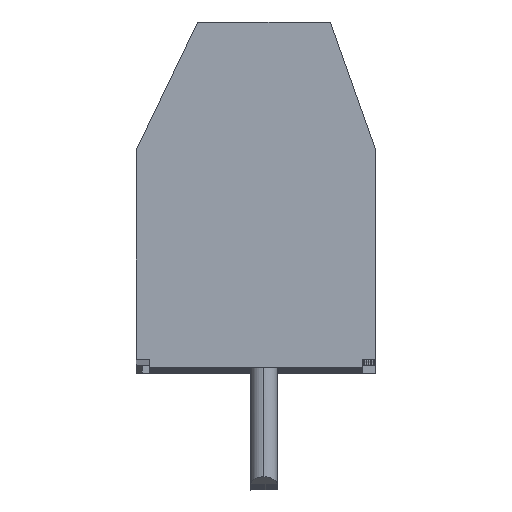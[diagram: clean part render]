
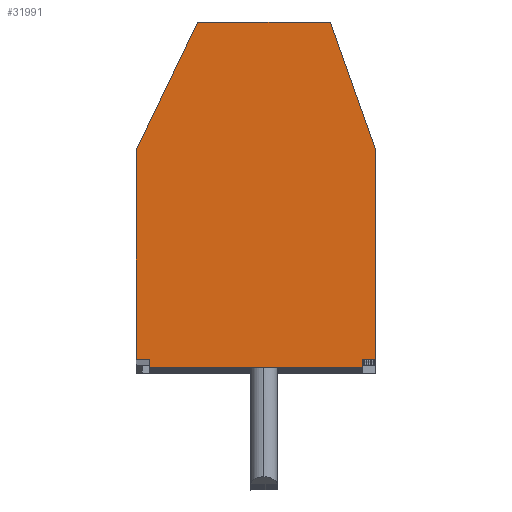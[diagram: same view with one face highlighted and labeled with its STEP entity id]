
A CAD part, top view. The second image highlights one B-rep face of the part: STEP entity #31991.
In plain terms, the highlighted planar face has unit normal (0, 0, 1).
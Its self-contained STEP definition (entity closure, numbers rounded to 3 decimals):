
#3039 = DIRECTION ( 'NONE',  ( 0.334, -0.943, 0. ) ) ;
#3040 = VECTOR ( 'NONE', #3039, 1000. ) ;
#3041 = CARTESIAN_POINT ( 'NONE',  ( 2.5, 12.7, 0. ) ) ;
#3042 = LINE ( 'NONE', #3041, #3040 ) ;
#3404 = CARTESIAN_POINT ( 'NONE',  ( 4.2, 7.9, 0. ) ) ;
#6079 = CARTESIAN_POINT ( 'NONE',  ( -4.8, 7.9, 0. ) ) ;
#6125 = CARTESIAN_POINT ( 'NONE',  ( -4.3, 0., 0. ) ) ;
#6126 = DIRECTION ( 'NONE',  ( -1., 0., 0. ) ) ;
#6127 = VECTOR ( 'NONE', #6126, 1000. ) ;
#6128 = CARTESIAN_POINT ( 'NONE',  ( 4.2, 0., 0. ) ) ;
#6129 = LINE ( 'NONE', #6128, #6127 ) ;
#6130 = CARTESIAN_POINT ( 'NONE',  ( -4.8, 0., 0. ) ) ;
#6131 = DIRECTION ( 'NONE',  ( 0., -1., 0. ) ) ;
#6132 = VECTOR ( 'NONE', #6131, 1000. ) ;
#6133 = CARTESIAN_POINT ( 'NONE',  ( -4.8, 3.95, 0. ) ) ;
#6134 = LINE ( 'NONE', #6133, #6132 ) ;
#6135 = DIRECTION ( 'NONE',  ( -1., 0., 0. ) ) ;
#6136 = DIRECTION ( 'NONE',  ( 0., 0., -1. ) ) ;
#6137 = CARTESIAN_POINT ( 'NONE',  ( 4.2, -0.3, 0. ) ) ;
#6138 = AXIS2_PLACEMENT_3D ( 'NONE', #6137, #6136, #6135 ) ;
#6139 = PLANE ( 'NONE',  #6138 ) ;
#6140 = FACE_OUTER_BOUND ( 'NONE', #31995, .T. ) ;
#6141 = DIRECTION ( 'NONE',  ( 0.432, 0.902, 0. ) ) ;
#6142 = VECTOR ( 'NONE', #6141, 1000. ) ;
#6143 = CARTESIAN_POINT ( 'NONE',  ( -4.8, 7.9, 0. ) ) ;
#6144 = LINE ( 'NONE', #6143, #6142 ) ;
#6237 = CARTESIAN_POINT ( 'NONE',  ( -0.3, -0.3, 0. ) ) ;
#6238 = LINE ( 'NONE', #6237, #6298 ) ;
#6239 = CARTESIAN_POINT ( 'NONE',  ( -4.3, -0.3, 0. ) ) ;
#6240 = DIRECTION ( 'NONE',  ( 0., 1., 0. ) ) ;
#6241 = VECTOR ( 'NONE', #6240, 1000. ) ;
#6242 = CARTESIAN_POINT ( 'NONE',  ( -4.3, 6.2, 0. ) ) ;
#6243 = LINE ( 'NONE', #6242, #6241 ) ;
#6293 = DIRECTION ( 'NONE',  ( 0., 1., 0. ) ) ;
#6294 = VECTOR ( 'NONE', #6293, 1000. ) ;
#6295 = CARTESIAN_POINT ( 'NONE',  ( 4.2, -0.3, 0. ) ) ;
#6296 = LINE ( 'NONE', #6295, #6294 ) ;
#6297 = DIRECTION ( 'NONE',  ( -1., 0., 0. ) ) ;
#6298 = VECTOR ( 'NONE', #6297, 1000. ) ;
#19757 = EDGE_CURVE ( 'NONE', #19759, #19794, #35861, .T. ) ;
#19759 = VERTEX_POINT ( 'NONE', #36056 ) ;
#19794 = VERTEX_POINT ( 'NONE', #36127 ) ;
#26281 = VERTEX_POINT ( 'NONE', #65357 ) ;
#26298 = VERTEX_POINT ( 'NONE', #65401 ) ;
#26305 = EDGE_CURVE ( 'NONE', #26298, #26281, #65395, .T. ) ;
#26467 = VERTEX_POINT ( 'NONE', #65567 ) ;
#26477 = EDGE_CURVE ( 'NONE', #19759, #26467, #65556, .T. ) ;
#29557 = EDGE_CURVE ( 'NONE', #26281, #29758, #3042, .T. ) ;
#29758 = VERTEX_POINT ( 'NONE', #3404 ) ;
#31981 = VERTEX_POINT ( 'NONE', #6079 ) ;
#31987 = EDGE_CURVE ( 'NONE', #31981, #26298, #6144, .T. ) ;
#31991 = ADVANCED_FACE ( 'NONE', ( #6140 ), #6139, .F. ) ;
#31995 = EDGE_LOOP ( 'NONE', ( #31997, #32000, #32003, #32012, #32183, #32190, #32195, #32197, #32199, #32203 ) ) ;
#31997 = ORIENTED_EDGE ( 'NONE', *, *, #26305, .F. ) ;
#32000 = ORIENTED_EDGE ( 'NONE', *, *, #31987, .F. ) ;
#32003 = ORIENTED_EDGE ( 'NONE', *, *, #32006, .T. ) ;
#32006 = EDGE_CURVE ( 'NONE', #31981, #32010, #6134, .T. ) ;
#32010 = VERTEX_POINT ( 'NONE', #6130 ) ;
#32012 = ORIENTED_EDGE ( 'NONE', *, *, #32016, .F. ) ;
#32016 = EDGE_CURVE ( 'NONE', #32019, #32010, #6129, .T. ) ;
#32019 = VERTEX_POINT ( 'NONE', #6125 ) ;
#32183 = ORIENTED_EDGE ( 'NONE', *, *, #32185, .F. ) ;
#32185 = EDGE_CURVE ( 'NONE', #32188, #32019, #6243, .T. ) ;
#32188 = VERTEX_POINT ( 'NONE', #6239 ) ;
#32190 = ORIENTED_EDGE ( 'NONE', *, *, #32192, .F. ) ;
#32192 = EDGE_CURVE ( 'NONE', #26467, #32188, #6238, .T. ) ;
#32195 = ORIENTED_EDGE ( 'NONE', *, *, #26477, .F. ) ;
#32197 = ORIENTED_EDGE ( 'NONE', *, *, #19757, .T. ) ;
#32199 = ORIENTED_EDGE ( 'NONE', *, *, #32201, .T. ) ;
#32201 = EDGE_CURVE ( 'NONE', #19794, #29758, #6296, .T. ) ;
#32203 = ORIENTED_EDGE ( 'NONE', *, *, #29557, .F. ) ;
#35859 = CARTESIAN_POINT ( 'NONE',  ( 3.95, 0., 0. ) ) ;
#35861 = LINE ( 'NONE', #35859, #36061 ) ;
#36056 = CARTESIAN_POINT ( 'NONE',  ( 3.7, 0., 0. ) ) ;
#36058 = DIRECTION ( 'NONE',  ( 1., 0., 0. ) ) ;
#36061 = VECTOR ( 'NONE', #36058, 1000. ) ;
#36127 = CARTESIAN_POINT ( 'NONE',  ( 4.2, 0., 0. ) ) ;
#65357 = CARTESIAN_POINT ( 'NONE',  ( 2.5, 12.7, 0. ) ) ;
#65392 = DIRECTION ( 'NONE',  ( 1., 0., 0. ) ) ;
#65393 = VECTOR ( 'NONE', #65392, 1000. ) ;
#65394 = CARTESIAN_POINT ( 'NONE',  ( -2.5, 12.7, 0. ) ) ;
#65395 = LINE ( 'NONE', #65394, #65393 ) ;
#65401 = CARTESIAN_POINT ( 'NONE',  ( -2.5, 12.7, 0. ) ) ;
#65553 = DIRECTION ( 'NONE',  ( 0., -1., 0. ) ) ;
#65554 = VECTOR ( 'NONE', #65553, 1000. ) ;
#65555 = CARTESIAN_POINT ( 'NONE',  ( 3.7, 6.2, 0. ) ) ;
#65556 = LINE ( 'NONE', #65555, #65554 ) ;
#65567 = CARTESIAN_POINT ( 'NONE',  ( 3.7, -0.3, 0. ) ) ;
